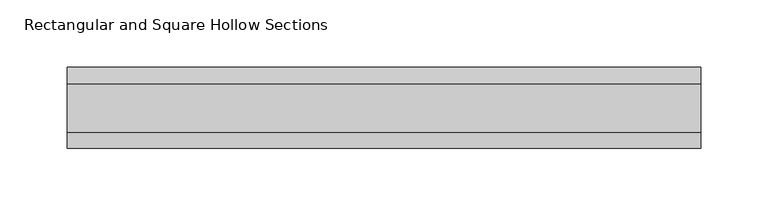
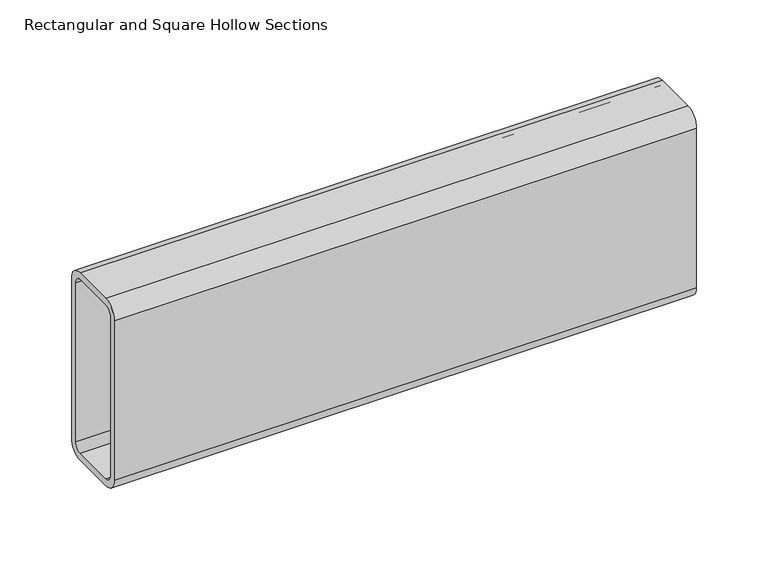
"""IFC4 building model written with IfcOpenShell, lengths in millimetres: beam geometry, Rectangular and Square Hollow Sections : TREC160x60x6."""

import ifcopenshell
import ifcopenshell.guid

model = None  # the IFC model being written
_history = None  # IfcOwnerHistory: only IFC2X3 demands one
_inside = {}  # id of a spatial element -> (the spatial element, [elements in it])
_under = {}  # id of a project, library or spatial element -> (it, [spatial elements below it])
_declared = {}  # id of a project -> (the project, [libraries it declares])
_typed = {}  # id of a type object -> (the type object, [elements of that type])
_made_of = {}  # id of a material, layer set ... -> (it, [elements and type objects made of it])


def new_model(schema):
    """Start an empty IFC model of exactly this schema.

    Asked for "IFC4X3", IfcOpenShell would pick the latest addendum, in which some entities
    have other attributes; the version numbers below select the first issue.
    IFC2X3 requires an IfcOwnerHistory on every rooted entity: one is made here for all.
    """
    global model, _history
    if schema == "IFC4X3":
        model = ifcopenshell.file(schema_version=(4, 3, 0, 0))
    else:
        model = ifcopenshell.file(schema=schema)
    _inside.clear()
    _under.clear()
    _declared.clear()
    _typed.clear()
    _made_of.clear()
    _history = None
    if model.schema == "IFC2X3":
        org = make("IfcOrganization", Name="unknown")
        user = make(
            "IfcPersonAndOrganization",
            ThePerson=make("IfcPerson", FamilyName="unknown"),
            TheOrganization=org,
        )
        app = make(
            "IfcApplication",
            ApplicationDeveloper=org,
            Version="unknown",
            ApplicationFullName="unknown",
            ApplicationIdentifier="unknown",
        )
        _history = make(
            "IfcOwnerHistory",
            OwningUser=user,
            OwningApplication=app,
            ChangeAction="ADDED",
            CreationDate=0,
        )
    return model


def make(cls, **values):
    """One entity of the class cls with the attributes given. An attribute that is None is left unset."""
    return model.create_entity(
        cls, **{name: value for name, value in values.items() if value is not None}
    )


def rooted(cls, **values):
    """An entity with a GlobalId (a new one), such as an element, a storey or a relation."""
    return make(cls, GlobalId=ifcopenshell.guid.new(), OwnerHistory=_history, **values)


def si_unit(unit_type, name, prefix=None):
    """IfcSIUnit, for example si_unit("LENGTHUNIT", "METRE", prefix="MILLI")."""
    return make("IfcSIUnit", UnitType=unit_type, Prefix=prefix, Name=name)


def assignment(units):
    """IfcUnitAssignment: the units of a project."""
    return None if units is None else make("IfcUnitAssignment", Units=units)


def point(xyz):
    """IfcCartesianPoint."""
    return None if xyz is None else make("IfcCartesianPoint", Coordinates=xyz)


def direction(xyz):
    """IfcDirection."""
    return None if xyz is None else make("IfcDirection", DirectionRatios=xyz)


def frame(location, z_axis=None, x_axis=None):
    """IfcAxis2Placement3D, a coordinate frame: its origin and axes. An axis left out is left unset."""
    return make(
        "IfcAxis2Placement3D",
        Location=point(location),
        Axis=direction(z_axis),
        RefDirection=direction(x_axis),
    )


def frame_2d(location, x_axis=None):
    """IfcAxis2Placement2D, a coordinate frame in the plane: its origin and x axis."""
    return make(
        "IfcAxis2Placement2D", Location=point(location), RefDirection=direction(x_axis)
    )


def origin():
    """The frame at (0, 0, 0) with its axes left unset."""
    return frame((0.0, 0.0, 0.0))


def place(relative_to, where):
    """IfcLocalPlacement: puts the frame where relative to a parent placement (None: the world)."""
    return make(
        "IfcLocalPlacement", PlacementRelTo=relative_to, RelativePlacement=where
    )


def context(
    kind, dimensions, precision=None, world=None, true_north=None, identifier=None
):
    """IfcGeometricRepresentationContext, for example the 3D "Model" context."""
    return make(
        "IfcGeometricRepresentationContext",
        ContextIdentifier=identifier,
        ContextType=kind,
        CoordinateSpaceDimension=dimensions,
        Precision=precision,
        WorldCoordinateSystem=world,
        TrueNorth=true_north,
    )


def project(units=None, contexts=None):
    """IfcProject with its units and contexts."""
    return rooted(
        "IfcProject",
        Name="project",
        RepresentationContexts=contexts,
        UnitsInContext=assignment(units),
    )


def spatial(cls, under=None, at=None, **own):
    """A site, building, storey or space (cls), placed at a placement, below another one or the project."""
    s = rooted(cls, ObjectPlacement=at, **own)
    if under is not None:
        _under.setdefault(under.id(), (under, []))[1].append(s)
    return s


def polyline(points):
    """IfcPolyline through the points."""
    return make("IfcPolyline", Points=[point(p) for p in points])


def circle_curve(where, radius):
    """IfcCircle in the frame where."""
    return make("IfcCircle", Position=where, Radius=radius)


def trimmed(basis, trim1, trim2, sense, master):
    """IfcTrimmedCurve: the piece of a basis curve between two trims."""
    return make(
        "IfcTrimmedCurve",
        BasisCurve=basis,
        Trim1=trim1,
        Trim2=trim2,
        SenseAgreement=sense,
        MasterRepresentation=master,
    )


def segment(curve, same_sense, transition):
    """IfcCompositeCurveSegment."""
    return make(
        "IfcCompositeCurveSegment",
        Transition=transition,
        SameSense=same_sense,
        ParentCurve=curve,
    )


def composite_curve(segments, self_intersect=None):
    """IfcCompositeCurve: segments joined end to end."""
    return make("IfcCompositeCurve", Segments=segments, SelfIntersect=self_intersect)


def outline(outer, holes=None, kind="AREA"):
    """IfcArbitraryClosedProfileDef: a profile drawn as a closed curve; with holes, ...WithVoids."""
    if holes is None:
        return make("IfcArbitraryClosedProfileDef", ProfileType=kind, OuterCurve=outer)
    return make(
        "IfcArbitraryProfileDefWithVoids",
        ProfileType=kind,
        OuterCurve=outer,
        InnerCurves=holes,
    )


def extrude(swept, where, along, depth):
    """IfcExtrudedAreaSolid: the profile swept, set in the frame where, extruded along a direction by depth."""
    return make(
        "IfcExtrudedAreaSolid",
        SweptArea=swept,
        Position=where,
        ExtrudedDirection=direction(along),
        Depth=depth,
    )


def shape(context_of_items, identifier, shape_type, items):
    """IfcShapeRepresentation: the items that make up one representation, for example the "Body"."""
    return make(
        "IfcShapeRepresentation",
        ContextOfItems=context_of_items,
        RepresentationIdentifier=identifier,
        RepresentationType=shape_type,
        Items=items,
    )


def source(mapping_origin, context_of_items, identifier, shape_type, items):
    """IfcRepresentationMap: a shape defined once, which mapped items show again and again."""
    return make(
        "IfcRepresentationMap",
        MappingOrigin=mapping_origin,
        MappedRepresentation=shape(context_of_items, identifier, shape_type, items),
    )


def transform(
    local_origin,
    x_axis=None,
    y_axis=None,
    z_axis=None,
    scale=None,
    scale2=None,
    scale3=None,
    uniform=True,
):
    """IfcCartesianTransformationOperator3D, or its non-uniform kind. x_axis, y_axis, z_axis: its Axis1, 2, 3."""
    if uniform:
        return make(
            "IfcCartesianTransformationOperator3D",
            Axis1=direction(x_axis),
            Axis2=direction(y_axis),
            LocalOrigin=point(local_origin),
            Scale=scale,
            Axis3=direction(z_axis),
        )
    return make(
        "IfcCartesianTransformationOperator3DnonUniform",
        Axis1=direction(x_axis),
        Axis2=direction(y_axis),
        LocalOrigin=point(local_origin),
        Scale=scale,
        Axis3=direction(z_axis),
        Scale2=scale2,
        Scale3=scale3,
    )


def mapped(mapping_source, mapping_target):
    """IfcMappedItem: shows the shape of a source again, moved by a transform."""
    return make(
        "IfcMappedItem", MappingSource=mapping_source, MappingTarget=mapping_target
    )


def made_of(thing, what):
    """Note that an element or type object is made of a material, layer set ...; save() writes the relation."""
    if what is not None:
        _made_of.setdefault(what.id(), (what, []))[1].append(thing)
    return thing


def element(
    cls,
    number,
    at=None,
    inside=None,
    cuts=None,
    type_object=None,
    material=None,
    context=None,
    identifier="Body",
    shape_type=None,
    held_by="IfcProductDefinitionShape",
    body=None,
    shapes=None,
    **own,
):
    """One element of the class cls, such as IfcWall. Its Tag is "e" and its number.

    at: its placement. inside: the storey or other place that contains it. cuts: it is an
    opening in that element (IfcRelVoidsElement). A single representation is given by context,
    identifier, shape_type and body (its items); several are given by shapes. held_by: the class
    of the entity that holds the representations. save() writes the other relations.
    """
    e = rooted(cls, Tag="e%d" % number, ObjectPlacement=at, **own)
    if body is not None:
        shapes = [shape(context, identifier, shape_type, body)]
    if shapes is not None:
        e.Representation = make(held_by, Representations=shapes)
    if inside is not None:
        _inside.setdefault(inside.id(), (inside, []))[1].append(e)
    if cuts is not None:
        rooted(
            "IfcRelVoidsElement", RelatingBuildingElement=cuts, RelatedOpeningElement=e
        )
    if type_object is not None:
        _typed.setdefault(type_object.id(), (type_object, []))[1].append(e)
    return made_of(e, material)


def aggregate(whole, parts):
    """IfcRelAggregates: a whole, such as a stair, and the parts it consists of."""
    return rooted("IfcRelAggregates", RelatingObject=whole, RelatedObjects=parts)


def save(model, path):
    """Write the relations noted so far, then the file.

    IfcRelAggregates (storeys below a building ...), IfcRelContainedInSpatialStructure (elements
    in a storey), IfcRelDefinesByType, IfcRelAssociatesMaterial and IfcRelDeclares: one each for
    every whole, place, type object, material and project.
    """
    for whole, parts in _under.values():
        aggregate(whole, parts)
    for where, things in _inside.values():
        rooted(
            "IfcRelContainedInSpatialStructure",
            RelatedElements=things,
            RelatingStructure=where,
        )
    for kind, things in _typed.values():
        rooted("IfcRelDefinesByType", RelatedObjects=things, RelatingType=kind)
    for what, things in _made_of.values():
        rooted("IfcRelAssociatesMaterial", RelatedObjects=things, RelatingMaterial=what)
    for by, libraries in _declared.values():
        rooted("IfcRelDeclares", RelatingContext=by, RelatedDefinitions=libraries)
    model.write(path)


def rectangular_and_square_hollow_sections_ba02adca(model_context):
    return source(origin(), model_context, "Body", "SweptSolid", [
        extrude(outline(composite_curve([segment(polyline([(30.0, 68.0), (30.0, -68.0)]), True, "CONTINUOUS"), segment(trimmed(circle_curve(frame_2d((18.0, -68.0)), 12.0), [point((30.0, -68.0))], [point((18.0, -80.0))], False, "CARTESIAN"), True, "CONTINUOUS"), segment(polyline([(18.0, -80.0), (-18.0, -80.0)]), True, "CONTINUOUS"), segment(trimmed(circle_curve(frame_2d((-18.0, -68.0)), 12.0), [point((-18.0, -80.0))], [point((-30.0, -68.0))], False, "CARTESIAN"), True, "CONTINUOUS"), segment(polyline([(-30.0, -68.0), (-30.0, 68.0)]), True, "CONTINUOUS"), segment(trimmed(circle_curve(frame_2d((-18.0, 68.0)), 12.0), [point((-30.0, 68.0))], [point((-18.0, 80.0))], False, "CARTESIAN"), True, "CONTINUOUS"), segment(polyline([(-18.0, 80.0), (18.0, 80.0)]), True, "CONTINUOUS"), segment(trimmed(circle_curve(frame_2d((18.0, 68.0)), 12.0), [point((18.0, 80.0))], [point((30.0, 68.0))], False, "CARTESIAN"), True, "CONTINUOUS")], self_intersect=False), holes=[composite_curve([segment(trimmed(circle_curve(frame_2d((-18.0, 68.0)), 6.0), [point((-18.0, 74.0))], [point((-24.0, 68.0))], True, "CARTESIAN"), True, "CONTINUOUS"), segment(polyline([(-24.0, 68.0), (-24.0, -68.0)]), True, "CONTINUOUS"), segment(trimmed(circle_curve(frame_2d((-18.0, -68.0)), 6.0), [point((-24.0, -68.0))], [point((-18.0, -74.0))], True, "CARTESIAN"), True, "CONTINUOUS"), segment(polyline([(-18.0, -74.0), (18.0, -74.0)]), True, "CONTINUOUS"), segment(trimmed(circle_curve(frame_2d((18.0, -68.0)), 6.0), [point((18.0, -74.0))], [point((24.0, -68.0))], True, "CARTESIAN"), True, "CONTINUOUS"), segment(polyline([(24.0, -68.0), (24.0, 68.0)]), True, "CONTINUOUS"), segment(trimmed(circle_curve(frame_2d((18.0, 68.0)), 6.0), [point((24.0, 68.0))], [point((18.0, 74.0))], True, "CARTESIAN"), True, "CONTINUOUS"), segment(polyline([(18.0, 74.0), (-18.0, 74.0)]), True, "CONTINUOUS")], self_intersect=False)]), frame((-235.5, 0.0, 0.0), z_axis=(1.0, 0.0, 0.0), x_axis=(0.0, 1.0, 0.0)), (0.0, 0.0, 1.0), 470.0),
    ])


if __name__ == "__main__":
    model = new_model("IFC4")
    model_context = context("Model", 3, world=origin())
    ifc_project = project(units=[si_unit("LENGTHUNIT", "METRE", prefix="MILLI")], contexts=[model_context])
    site = spatial("IfcSite", under=ifc_project)
    building = spatial("IfcBuilding", under=site)
    placement = place(None, origin())
    rectangular_and_square_hollow_sections_shape = rectangular_and_square_hollow_sections_ba02adca(model_context)
    element("IfcBeam", 1, ObjectType="Rectangular and Square Hollow Sections : TREC160x60x6", at=placement, inside=building, context=model_context, shape_type="MappedRepresentation", body=[
        mapped(rectangular_and_square_hollow_sections_shape, transform((0.0, 0.0, 0.0), x_axis=(1.0, 0.0, 0.0), y_axis=(0.0, 1.0, 0.0), z_axis=(0.0, 0.0, 1.0))),
    ])
    save(model, "model.ifc")
